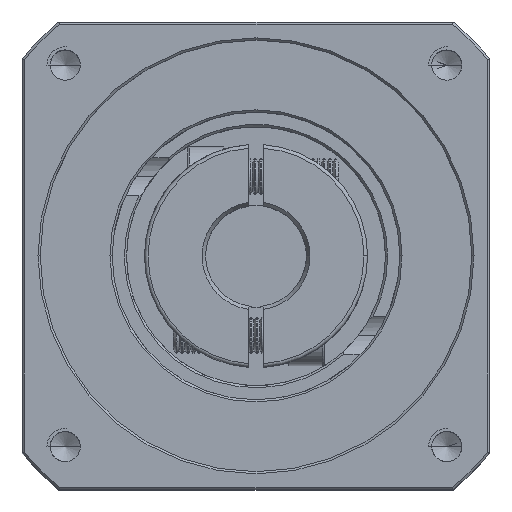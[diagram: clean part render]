
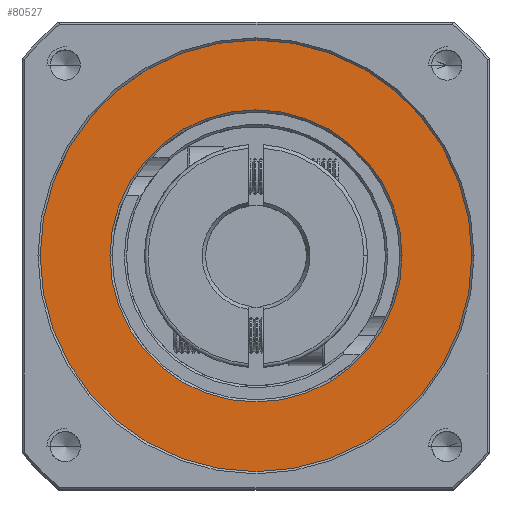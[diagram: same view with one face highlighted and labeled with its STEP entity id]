
A CAD part, top view. The second image highlights one B-rep face of the part: STEP entity #80527.
In plain terms, the highlighted planar face has unit normal (0, 0, 1).
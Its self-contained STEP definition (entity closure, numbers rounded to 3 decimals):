
#650 = CARTESIAN_POINT ( 'NONE',  ( -74.957, 22.264, 44.201 ) ) ;
#1384 = EDGE_CURVE ( 'NONE', #91619, #55763, #16681, .T. ) ;
#8494 = DIRECTION ( 'NONE',  ( 1., 0., 0. ) ) ;
#9836 = CARTESIAN_POINT ( 'NONE',  ( -74.957, 22.264, 44.201 ) ) ;
#12829 = CARTESIAN_POINT ( 'NONE',  ( -74.957, 22.264, 44.201 ) ) ;
#13311 = EDGE_CURVE ( 'NONE', #50476, #44185, #53238, .T. ) ;
#15244 = CARTESIAN_POINT ( 'NONE',  ( -104.957, 22.264, 44.201 ) ) ;
#16681 = CIRCLE ( 'NONE', #72801, 30. ) ;
#17737 = DIRECTION ( 'NONE',  ( 1., 0., 0. ) ) ;
#20400 = CIRCLE ( 'NONE', #21322, 30. ) ;
#20750 = DIRECTION ( 'NONE',  ( 1., 0., 0. ) ) ;
#21322 = AXIS2_PLACEMENT_3D ( 'NONE', #9836, #64835, #17737 ) ;
#26567 = AXIS2_PLACEMENT_3D ( 'NONE', #41116, #96006, #48982 ) ;
#26915 = AXIS2_PLACEMENT_3D ( 'NONE', #12829, #67781, #20750 ) ;
#29734 = ORIENTED_EDGE ( 'NONE', *, *, #90064, .T. ) ;
#30233 = DIRECTION ( 'NONE',  ( 0., 0., 1. ) ) ;
#36361 = FACE_BOUND ( 'NONE', #52239, .T. ) ;
#37528 = CIRCLE ( 'NONE', #26915, 20.3 ) ;
#41116 = CARTESIAN_POINT ( 'NONE',  ( -74.957, 22.264, 44.201 ) ) ;
#41525 = ORIENTED_EDGE ( 'NONE', *, *, #1384, .T. ) ;
#44185 = VERTEX_POINT ( 'NONE', #77266 ) ;
#48982 = DIRECTION ( 'NONE',  ( 1., 0., 0. ) ) ;
#50476 = VERTEX_POINT ( 'NONE', #64531 ) ;
#52239 = EDGE_LOOP ( 'NONE', ( #64258, #68766 ) ) ;
#53238 = CIRCLE ( 'NONE', #26567, 20.3 ) ;
#55521 = DIRECTION ( 'NONE',  ( 0., 0., 1. ) ) ;
#55763 = VERTEX_POINT ( 'NONE', #60608 ) ;
#60608 = CARTESIAN_POINT ( 'NONE',  ( -44.957, 22.264, 44.201 ) ) ;
#61534 = EDGE_LOOP ( 'NONE', ( #29734, #41525 ) ) ;
#64258 = ORIENTED_EDGE ( 'NONE', *, *, #13311, .T. ) ;
#64531 = CARTESIAN_POINT ( 'NONE',  ( -54.657, 22.264, 44.201 ) ) ;
#64835 = DIRECTION ( 'NONE',  ( 0., 0., 1. ) ) ;
#67781 = DIRECTION ( 'NONE',  ( 0., 0., -1. ) ) ;
#68766 = ORIENTED_EDGE ( 'NONE', *, *, #87782, .T. ) ;
#72801 = AXIS2_PLACEMENT_3D ( 'NONE', #650, #55521, #8494 ) ;
#76088 = AXIS2_PLACEMENT_3D ( 'NONE', #77299, #30233, #85233 ) ;
#77266 = CARTESIAN_POINT ( 'NONE',  ( -95.257, 22.264, 44.201 ) ) ;
#77299 = CARTESIAN_POINT ( 'NONE',  ( -74.957, 22.264, 44.201 ) ) ;
#78115 = FACE_OUTER_BOUND ( 'NONE', #61534, .T. ) ;
#80527 = ADVANCED_FACE ( 'NONE', ( #36361, #78115 ), #92746, .T. ) ;
#85233 = DIRECTION ( 'NONE',  ( 1., 0., 0. ) ) ;
#87782 = EDGE_CURVE ( 'NONE', #44185, #50476, #37528, .T. ) ;
#90064 = EDGE_CURVE ( 'NONE', #55763, #91619, #20400, .T. ) ;
#91619 = VERTEX_POINT ( 'NONE', #15244 ) ;
#92746 = PLANE ( 'NONE',  #76088 ) ;
#96006 = DIRECTION ( 'NONE',  ( 0., 0., -1. ) ) ;
